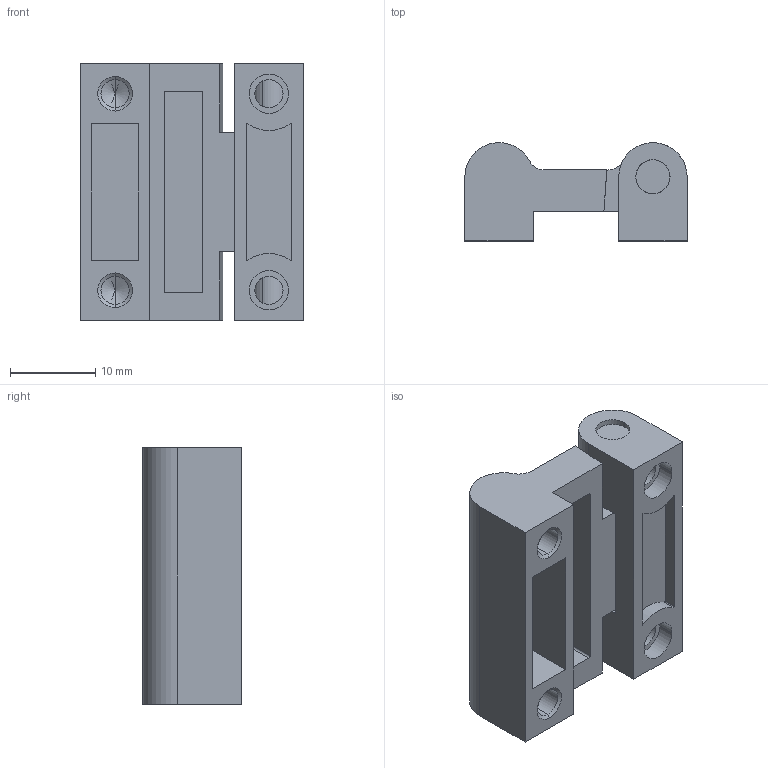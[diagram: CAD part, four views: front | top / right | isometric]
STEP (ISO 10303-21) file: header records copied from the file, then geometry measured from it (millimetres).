
FILE_DESCRIPTION (( 'STEP AP203' ), '1' );
FILE_NAME ('XG02-039.STEP', '2023-12-07T07:40:50', ( '' ), ( '' ), 'SwSTEP 2.0', 'SolidWorks 2020', '' );
FILE_SCHEMA (( 'CONFIG_CONTROL_DESIGN' ));
Length unit declared in the file: millimetre
Products named in the file (4): HL023.-ASLDPRT; XG02-039; HL023.-BSLDPRT; HL023
Assembly tree (3 placements, depth 2):
  XG02-039
    HL023
    HL023.-ASLDPRT
    HL023.-BSLDPRT
Bounding box: 26 x 11.5 x 30 mm (x, y, z)
Volume: 4775.9 mm3; surface area: 5003.2 mm2
Topology: 3 solids, 3 shells, 82 faces, 205 edges, 132 vertices
Faces by surface type: cylinder 38, plane 36, cone 8
Entity records: 2975 total; most frequent: CARTESIAN_POINT 537, DIRECTION 449, ORIENTED_EDGE 402, EDGE_CURVE 201, AXIS2_PLACEMENT_3D 164, VERTEX_POINT 132, VECTOR 121, LINE 121
